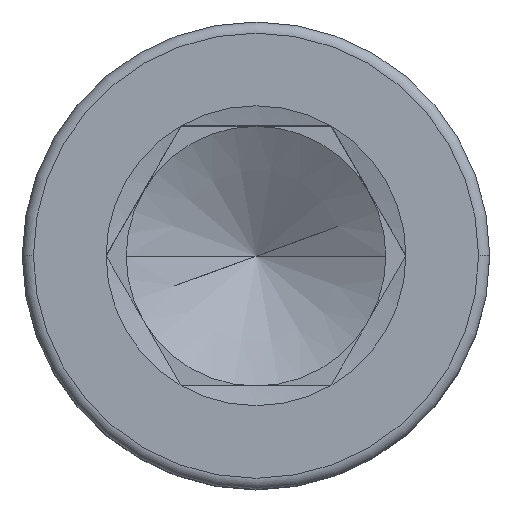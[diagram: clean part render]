
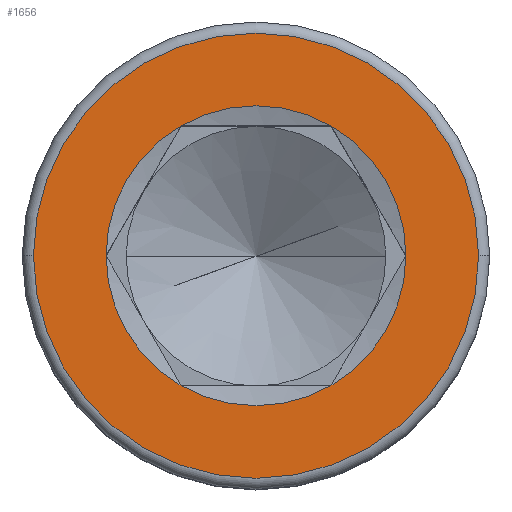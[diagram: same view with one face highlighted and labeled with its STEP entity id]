
A CAD part, top view. The second image highlights one B-rep face of the part: STEP entity #1656.
In plain terms, the highlighted planar face has unit normal (0, 0, 1).
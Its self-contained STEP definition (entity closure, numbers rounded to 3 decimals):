
#47 = ORIENTED_EDGE ( 'NONE', *, *, #916, .F. ) ;
#55 = DIRECTION ( 'NONE',  ( 0., 0., 1. ) ) ;
#80 = DIRECTION ( 'NONE',  ( 1., 0., 0. ) ) ;
#82 = CARTESIAN_POINT ( 'NONE',  ( 2.887, 5., 12. ) ) ;
#90 = CIRCLE ( 'NONE', #1097, 8.57 ) ;
#100 = AXIS2_PLACEMENT_3D ( 'NONE', #470, #321, #877 ) ;
#119 = CARTESIAN_POINT ( 'NONE',  ( 0., 0., 12. ) ) ;
#121 = EDGE_CURVE ( 'NONE', #204, #547, #90, .T. ) ;
#168 = EDGE_CURVE ( 'NONE', #1411, #1385, #1009, .T. ) ;
#193 = VERTEX_POINT ( 'NONE', #82 ) ;
#202 = CARTESIAN_POINT ( 'NONE',  ( 0., 0., 12. ) ) ;
#204 = VERTEX_POINT ( 'NONE', #1468 ) ;
#213 = AXIS2_PLACEMENT_3D ( 'NONE', #119, #414, #1774 ) ;
#321 = DIRECTION ( 'NONE',  ( 0., 0., 1. ) ) ;
#335 = EDGE_CURVE ( 'NONE', #547, #204, #1506, .T. ) ;
#339 = DIRECTION ( 'NONE',  ( 1., 0., 0. ) ) ;
#341 = EDGE_CURVE ( 'NONE', #548, #1117, #952, .T. ) ;
#342 = CARTESIAN_POINT ( 'NONE',  ( 0., 0., 12. ) ) ;
#351 = DIRECTION ( 'NONE',  ( 0., 0., 1. ) ) ;
#359 = CARTESIAN_POINT ( 'NONE',  ( 0., 0., 12. ) ) ;
#414 = DIRECTION ( 'NONE',  ( 0., 0., 1. ) ) ;
#434 = ORIENTED_EDGE ( 'NONE', *, *, #784, .F. ) ;
#446 = CIRCLE ( 'NONE', #583, 5.774 ) ;
#470 = CARTESIAN_POINT ( 'NONE',  ( 0., 0., 12. ) ) ;
#515 = CARTESIAN_POINT ( 'NONE',  ( 0., 0., 12. ) ) ;
#530 = CARTESIAN_POINT ( 'NONE',  ( -2.887, 5., 12. ) ) ;
#547 = VERTEX_POINT ( 'NONE', #1602 ) ;
#548 = VERTEX_POINT ( 'NONE', #1620 ) ;
#553 = EDGE_LOOP ( 'NONE', ( #1001, #1536 ) ) ;
#583 = AXIS2_PLACEMENT_3D ( 'NONE', #202, #1167, #638 ) ;
#612 = PLANE ( 'NONE',  #1787 ) ;
#638 = DIRECTION ( 'NONE',  ( 1., 0., 0. ) ) ;
#645 = DIRECTION ( 'NONE',  ( 0., 0., 1. ) ) ;
#687 = EDGE_LOOP ( 'NONE', ( #47, #1425, #1186, #434, #1344, #1104 ) ) ;
#701 = CIRCLE ( 'NONE', #1025, 5.774 ) ;
#755 = CARTESIAN_POINT ( 'NONE',  ( 0., 0., 12. ) ) ;
#756 = CIRCLE ( 'NONE', #213, 5.774 ) ;
#779 = DIRECTION ( 'NONE',  ( 1., 0., 0. ) ) ;
#784 = EDGE_CURVE ( 'NONE', #1385, #548, #1719, .T. ) ;
#789 = EDGE_CURVE ( 'NONE', #193, #1411, #446, .T. ) ;
#791 = AXIS2_PLACEMENT_3D ( 'NONE', #342, #351, #1736 ) ;
#877 = DIRECTION ( 'NONE',  ( 1., 0., 0. ) ) ;
#879 = FACE_OUTER_BOUND ( 'NONE', #553, .T. ) ;
#916 = EDGE_CURVE ( 'NONE', #1204, #193, #701, .T. ) ;
#952 = CIRCLE ( 'NONE', #100, 5.774 ) ;
#953 = EDGE_CURVE ( 'NONE', #1117, #1204, #756, .T. ) ;
#1001 = ORIENTED_EDGE ( 'NONE', *, *, #335, .T. ) ;
#1009 = CIRCLE ( 'NONE', #1596, 5.774 ) ;
#1025 = AXIS2_PLACEMENT_3D ( 'NONE', #755, #1317, #80 ) ;
#1097 = AXIS2_PLACEMENT_3D ( 'NONE', #359, #645, #1460 ) ;
#1104 = ORIENTED_EDGE ( 'NONE', *, *, #789, .F. ) ;
#1117 = VERTEX_POINT ( 'NONE', #1120 ) ;
#1120 = CARTESIAN_POINT ( 'NONE',  ( 2.887, -5., 12. ) ) ;
#1167 = DIRECTION ( 'NONE',  ( 0., 0., 1. ) ) ;
#1186 = ORIENTED_EDGE ( 'NONE', *, *, #341, .F. ) ;
#1204 = VERTEX_POINT ( 'NONE', #1722 ) ;
#1290 = CARTESIAN_POINT ( 'NONE',  ( 0., 0., 12. ) ) ;
#1293 = DIRECTION ( 'NONE',  ( 1., 0., 0. ) ) ;
#1317 = DIRECTION ( 'NONE',  ( 0., 0., 1. ) ) ;
#1344 = ORIENTED_EDGE ( 'NONE', *, *, #168, .F. ) ;
#1351 = DIRECTION ( 'NONE',  ( 0., 0., 1. ) ) ;
#1385 = VERTEX_POINT ( 'NONE', #1499 ) ;
#1411 = VERTEX_POINT ( 'NONE', #530 ) ;
#1425 = ORIENTED_EDGE ( 'NONE', *, *, #953, .F. ) ;
#1440 = DIRECTION ( 'NONE',  ( 0., 0., 1. ) ) ;
#1460 = DIRECTION ( 'NONE',  ( 1., 0., 0. ) ) ;
#1468 = CARTESIAN_POINT ( 'NONE',  ( -8.57, 0., 12. ) ) ;
#1499 = CARTESIAN_POINT ( 'NONE',  ( -5.774, 0., 12. ) ) ;
#1506 = CIRCLE ( 'NONE', #1737, 8.57 ) ;
#1536 = ORIENTED_EDGE ( 'NONE', *, *, #121, .T. ) ;
#1596 = AXIS2_PLACEMENT_3D ( 'NONE', #515, #1351, #779 ) ;
#1602 = CARTESIAN_POINT ( 'NONE',  ( 8.57, 0., 12. ) ) ;
#1605 = FACE_BOUND ( 'NONE', #687, .T. ) ;
#1620 = CARTESIAN_POINT ( 'NONE',  ( -2.887, -5., 12. ) ) ;
#1656 = ADVANCED_FACE ( 'NONE', ( #879, #1605 ), #612, .T. ) ;
#1718 = CARTESIAN_POINT ( 'NONE',  ( 0., 0., 12. ) ) ;
#1719 = CIRCLE ( 'NONE', #791, 5.774 ) ;
#1722 = CARTESIAN_POINT ( 'NONE',  ( 5.774, 0., 12. ) ) ;
#1736 = DIRECTION ( 'NONE',  ( 1., 0., 0. ) ) ;
#1737 = AXIS2_PLACEMENT_3D ( 'NONE', #1290, #55, #339 ) ;
#1774 = DIRECTION ( 'NONE',  ( 1., 0., 0. ) ) ;
#1787 = AXIS2_PLACEMENT_3D ( 'NONE', #1718, #1440, #1293 ) ;
